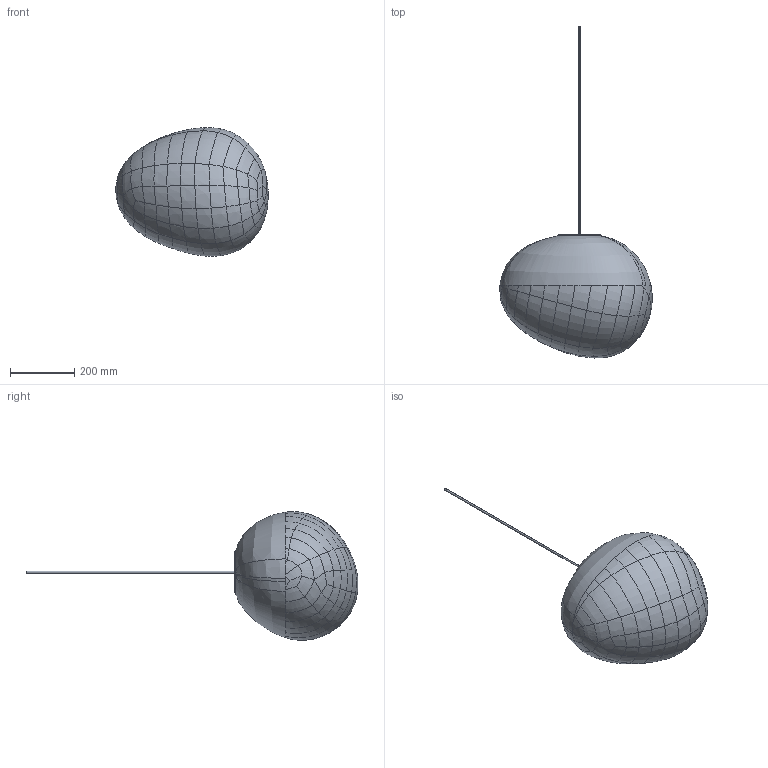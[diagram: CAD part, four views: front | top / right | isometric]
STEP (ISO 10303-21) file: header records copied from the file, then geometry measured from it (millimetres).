
FILE_DESCRIPTION (( 'STEP AP203' ), '1' );
FILE_NAME ('218_GRANDE_OS_PL_3D.STEP', '2021-04-07T14:26:39', ( '' ), ( '' ), 'SwSTEP 2.0', 'SolidWorks 2021', '' );
FILE_SCHEMA (( 'CONFIG_CONTROL_DESIGN' ));
Length unit declared in the file: millimetre
Products named in the file (1): 218_GRANDE_OS_PL_3D
Bounding box: 474.62 x 1033.7 x 400.52 mm (x, y, z)
Surface area: 788936.7 mm2 (no closed solid volume)
Topology: 0 solids, 11 shells, 268 faces, 965 edges, 695 vertices
Faces by surface type: bspline 190, plane 40, cone 28, sphere 6, cylinder 4
Entity records: 214119 total; most frequent: CARTESIAN_POINT 208043, ORIENTED_EDGE 1499, EDGE_CURVE 965, B_SPLINE_CURVE_WITH_KNOTS 716, VERTEX_POINT 695, DIRECTION 435, EDGE_LOOP 287, FACE_OUTER_BOUND 268
